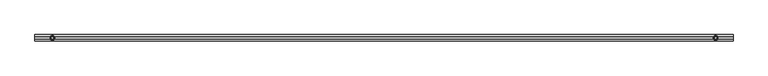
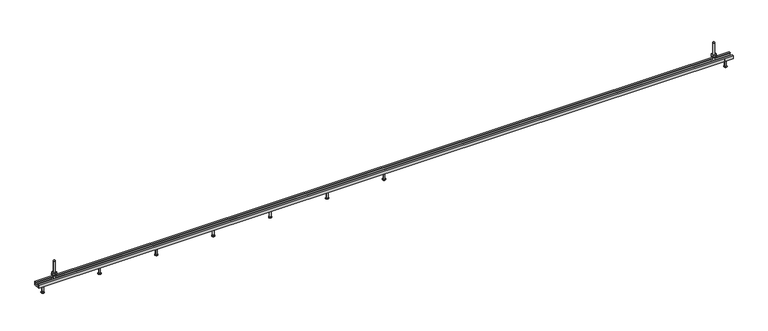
"""IFC4 building model written with IfcOpenShell, lengths in millimetres: fastener geometry, JTA-K JORDAHL® AnchorChannels : JTA-K L=3000 mm."""

from ifc_helpers import new_model, si_unit, point, frame, frame_2d, origin, place, context, project, spatial, polyline, circle_curve, trimmed, segment, composite_curve, outline, extrude, source, transform, mapped, element, save
from ifc_brep_helpers import plane_surface, cylinder_surface, revolved_surface, advanced_brep


def fastener_2a8526ea(model_context):
    return source(origin(), model_context, "Body", "SolidModel", [
        advanced_brep(
        [(1500.0, 0.0, -15.0), (1510.5, 0.0, -15.0), (1489.5, 0.0, -15.0), (1494.0, 0.0, -50.0), (1506.0, 0.0, -50.0), (1500.0, 0.0, -50.0), (1494.0, 0.0, -48.0), (1506.0, 0.0, -48.0), (1496.5, 0.0, -46.5566243), (1503.5, 0.0, -46.5566243), (1496.5, 0.0, -17.5), (1503.5, 0.0, -17.5)],
        [
            (0, 1),
            (1, 2, circle_curve(frame((1500.0, 0.0, -15.0), z_axis=(0.0, 0.0, 1.0), x_axis=(1.0, 0.0, 0.0)), 10.5)),
            (2, 0),
            (2, 1, circle_curve(frame((1500.0, 0.0, -15.0), z_axis=(0.0, 0.0, 1.0), x_axis=(1.0, 0.0, 0.0)), 10.5)),
            (3, 4, circle_curve(frame((1500.0, 0.0, -50.0), z_axis=(0.0, 0.0, -1.0), x_axis=(1.0, 0.0, 0.0)), 6.0)),
            (4, 5),
            (5, 3),
            (4, 3, circle_curve(frame((1500.0, 0.0, -50.0), z_axis=(0.0, 0.0, -1.0), x_axis=(1.0, 0.0, 0.0)), 6.0)),
            (6, 7, circle_curve(frame((1500.0, 0.0, -48.0), z_axis=(0.0, 0.0, -1.0), x_axis=(1.0, 0.0, 0.0)), 6.0)),
            (7, 4),
            (3, 6),
            (7, 6, circle_curve(frame((1500.0, 0.0, -48.0), z_axis=(0.0, 0.0, -1.0), x_axis=(1.0, 0.0, 0.0)), 6.0)),
            (8, 9, circle_curve(frame((1500.0, 0.0, -46.5566243), z_axis=(0.0, 0.0, -1.0), x_axis=(1.0, 0.0, 0.0)), 3.5)),
            (9, 7),
            (6, 8),
            (9, 8, circle_curve(frame((1500.0, 0.0, -46.5566243), z_axis=(0.0, 0.0, -1.0), x_axis=(1.0, 0.0, 0.0)), 3.5)),
            (10, 11, circle_curve(frame((1500.0, 0.0, -17.5), z_axis=(0.0, 0.0, -1.0), x_axis=(1.0, 0.0, 0.0)), 3.5)),
            (11, 9),
            (8, 10),
            (11, 10, circle_curve(frame((1500.0, 0.0, -17.5), z_axis=(0.0, 0.0, -1.0), x_axis=(1.0, 0.0, 0.0)), 3.5)),
            (1, 11),
            (10, 2),
        ],
        [
            plane_surface(frame((1500.0, 0.0, -15.0), z_axis=(0.0, 0.0, 1.0), x_axis=(1.0, 0.0, 0.0))),
            plane_surface(frame((1500.0, 0.0, -50.0), z_axis=(0.0, 0.0, -1.0), x_axis=(1.0, 0.0, 0.0))),
            cylinder_surface(frame((1500.0, 0.0, 2249.3150031), z_axis=(0.0, 0.0, 1.0), x_axis=(1.0, 0.0, 0.0)), 6.0),
            revolved_surface(polyline([(1506.0, 0.0, -48.0), (1503.5, 0.0, -46.5566243)]), (1500.0, 0.0, 2249.3150031), (0.0, 0.0, 1.0)),
            cylinder_surface(frame((1500.0, 0.0, 2249.3150031), z_axis=(0.0, 0.0, 1.0), x_axis=(1.0, 0.0, 0.0)), 3.5),
            revolved_surface(polyline([(1503.5, 0.0, -17.5), (1510.5, 0.0, -15.0)]), (1500.0, 0.0, 2249.3150031), (0.0, 0.0, 1.0)),
        ],
        [
            (0, [[1, 2, 3]]),
            (0, [[-3, 4, -1]]),
            (1, [[5, 6, 7]]),
            (1, [[8, -7, -6]]),
            (2, [[9, 10, -5, 11]]),
            (2, [[12, -11, -8, -10]]),
            (3, [[13, 14, -9, 15]]),
            (3, [[16, -15, -12, -14]]),
            (4, [[17, 18, -13, 19]]),
            (4, [[20, -19, -16, -18]]),
            (5, [[-2, 21, -17, 22]]),
            (5, [[-4, -22, -20, -21]]),
        ],
    ),
        advanced_brep(
        [(1254.1666667, 0.0, -15.0), (1264.6666667, 0.0, -15.0), (1243.6666667, 0.0, -15.0), (1248.1666667, 0.0, -50.0), (1260.1666667, 0.0, -50.0), (1254.1666667, 0.0, -50.0), (1248.1666667, 0.0, -48.0), (1260.1666667, 0.0, -48.0), (1250.6666667, 0.0, -46.5566243), (1257.6666667, 0.0, -46.5566243), (1250.6666667, 0.0, -17.5), (1257.6666667, 0.0, -17.5)],
        [
            (0, 1),
            (1, 2, circle_curve(frame((1254.1666667, 0.0, -15.0), z_axis=(0.0, 0.0, 1.0), x_axis=(1.0, 0.0, 0.0)), 10.5)),
            (2, 0),
            (2, 1, circle_curve(frame((1254.1666667, 0.0, -15.0), z_axis=(0.0, 0.0, 1.0), x_axis=(1.0, 0.0, 0.0)), 10.5)),
            (3, 4, circle_curve(frame((1254.1666667, 0.0, -50.0), z_axis=(0.0, 0.0, -1.0), x_axis=(1.0, 0.0, 0.0)), 6.0)),
            (4, 5),
            (5, 3),
            (4, 3, circle_curve(frame((1254.1666667, 0.0, -50.0), z_axis=(0.0, 0.0, -1.0), x_axis=(1.0, 0.0, 0.0)), 6.0)),
            (6, 7, circle_curve(frame((1254.1666667, 0.0, -48.0), z_axis=(0.0, 0.0, -1.0), x_axis=(1.0, 0.0, 0.0)), 6.0)),
            (7, 4),
            (3, 6),
            (7, 6, circle_curve(frame((1254.1666667, 0.0, -48.0), z_axis=(0.0, 0.0, -1.0), x_axis=(1.0, 0.0, 0.0)), 6.0)),
            (8, 9, circle_curve(frame((1254.1666667, 0.0, -46.5566243), z_axis=(0.0, 0.0, -1.0), x_axis=(1.0, 0.0, 0.0)), 3.5)),
            (9, 7),
            (6, 8),
            (9, 8, circle_curve(frame((1254.1666667, 0.0, -46.5566243), z_axis=(0.0, 0.0, -1.0), x_axis=(1.0, 0.0, 0.0)), 3.5)),
            (10, 11, circle_curve(frame((1254.1666667, 0.0, -17.5), z_axis=(0.0, 0.0, -1.0), x_axis=(1.0, 0.0, 0.0)), 3.5)),
            (11, 9),
            (8, 10),
            (11, 10, circle_curve(frame((1254.1666667, 0.0, -17.5), z_axis=(0.0, 0.0, -1.0), x_axis=(1.0, 0.0, 0.0)), 3.5)),
            (1, 11),
            (10, 2),
        ],
        [
            plane_surface(frame((1254.1666667, 0.0, -15.0), z_axis=(0.0, 0.0, 1.0), x_axis=(1.0, 0.0, 0.0))),
            plane_surface(frame((1254.1666667, 0.0, -50.0), z_axis=(0.0, 0.0, -1.0), x_axis=(1.0, 0.0, 0.0))),
            cylinder_surface(frame((1254.1666667, 0.0, 2249.3150031), z_axis=(0.0, 0.0, 1.0), x_axis=(1.0, 0.0, 0.0)), 6.0),
            revolved_surface(polyline([(1260.1666667, 0.0, -48.0), (1257.6666667, 0.0, -46.5566243)]), (1254.1666667, 0.0, 2249.3150031), (0.0, 0.0, 1.0)),
            cylinder_surface(frame((1254.1666667, 0.0, 2249.3150031), z_axis=(0.0, 0.0, 1.0), x_axis=(1.0, 0.0, 0.0)), 3.5),
            revolved_surface(polyline([(1257.6666667, 0.0, -17.5), (1264.6666667, 0.0, -15.0)]), (1254.1666667, 0.0, 2249.3150031), (0.0, 0.0, 1.0)),
        ],
        [
            (0, [[1, 2, 3]]),
            (0, [[-3, 4, -1]]),
            (1, [[5, 6, 7]]),
            (1, [[8, -7, -6]]),
            (2, [[9, 10, -5, 11]]),
            (2, [[12, -11, -8, -10]]),
            (3, [[13, 14, -9, 15]]),
            (3, [[16, -15, -12, -14]]),
            (4, [[17, 18, -13, 19]]),
            (4, [[20, -19, -16, -18]]),
            (5, [[-2, 21, -17, 22]]),
            (5, [[-4, -22, -20, -21]]),
        ],
    ),
        advanced_brep(
        [(1008.3333333, 0.0, -15.0), (1018.8333333, 0.0, -15.0), (997.8333333, 0.0, -15.0), (1002.3333333, 0.0, -50.0), (1014.3333333, 0.0, -50.0), (1008.3333333, 0.0, -50.0), (1002.3333333, 0.0, -48.0), (1014.3333333, 0.0, -48.0), (1004.8333333, 0.0, -46.5566243), (1011.8333333, 0.0, -46.5566243), (1004.8333333, 0.0, -17.5), (1011.8333333, 0.0, -17.5)],
        [
            (0, 1),
            (1, 2, circle_curve(frame((1008.3333333, 0.0, -15.0), z_axis=(0.0, 0.0, 1.0), x_axis=(1.0, 0.0, 0.0)), 10.5)),
            (2, 0),
            (2, 1, circle_curve(frame((1008.3333333, 0.0, -15.0), z_axis=(0.0, 0.0, 1.0), x_axis=(1.0, 0.0, 0.0)), 10.5)),
            (3, 4, circle_curve(frame((1008.3333333, 0.0, -50.0), z_axis=(0.0, 0.0, -1.0), x_axis=(1.0, 0.0, 0.0)), 6.0)),
            (4, 5),
            (5, 3),
            (4, 3, circle_curve(frame((1008.3333333, 0.0, -50.0), z_axis=(0.0, 0.0, -1.0), x_axis=(1.0, 0.0, 0.0)), 6.0)),
            (6, 7, circle_curve(frame((1008.3333333, 0.0, -48.0), z_axis=(0.0, 0.0, -1.0), x_axis=(1.0, 0.0, 0.0)), 6.0)),
            (7, 4),
            (3, 6),
            (7, 6, circle_curve(frame((1008.3333333, 0.0, -48.0), z_axis=(0.0, 0.0, -1.0), x_axis=(1.0, 0.0, 0.0)), 6.0)),
            (8, 9, circle_curve(frame((1008.3333333, 0.0, -46.5566243), z_axis=(0.0, 0.0, -1.0), x_axis=(1.0, 0.0, 0.0)), 3.5)),
            (9, 7),
            (6, 8),
            (9, 8, circle_curve(frame((1008.3333333, 0.0, -46.5566243), z_axis=(0.0, 0.0, -1.0), x_axis=(1.0, 0.0, 0.0)), 3.5)),
            (10, 11, circle_curve(frame((1008.3333333, 0.0, -17.5), z_axis=(0.0, 0.0, -1.0), x_axis=(1.0, 0.0, 0.0)), 3.5)),
            (11, 9),
            (8, 10),
            (11, 10, circle_curve(frame((1008.3333333, 0.0, -17.5), z_axis=(0.0, 0.0, -1.0), x_axis=(1.0, 0.0, 0.0)), 3.5)),
            (1, 11),
            (10, 2),
        ],
        [
            plane_surface(frame((1008.3333333, 0.0, -15.0), z_axis=(0.0, 0.0, 1.0), x_axis=(1.0, 0.0, 0.0))),
            plane_surface(frame((1008.3333333, 0.0, -50.0), z_axis=(0.0, 0.0, -1.0), x_axis=(1.0, 0.0, 0.0))),
            cylinder_surface(frame((1008.3333333, 0.0, 2249.3150031), z_axis=(0.0, 0.0, 1.0), x_axis=(1.0, 0.0, 0.0)), 6.0),
            revolved_surface(polyline([(1014.3333333, 0.0, -48.0), (1011.8333333, 0.0, -46.5566243)]), (1008.3333333, 0.0, 2249.3150031), (0.0, 0.0, 1.0)),
            cylinder_surface(frame((1008.3333333, 0.0, 2249.3150031), z_axis=(0.0, 0.0, 1.0), x_axis=(1.0, 0.0, 0.0)), 3.5),
            revolved_surface(polyline([(1011.8333333, 0.0, -17.5), (1018.8333333, 0.0, -15.0)]), (1008.3333333, 0.0, 2249.3150031), (0.0, 0.0, 1.0)),
        ],
        [
            (0, [[1, 2, 3]]),
            (0, [[-3, 4, -1]]),
            (1, [[5, 6, 7]]),
            (1, [[8, -7, -6]]),
            (2, [[9, 10, -5, 11]]),
            (2, [[12, -11, -8, -10]]),
            (3, [[13, 14, -9, 15]]),
            (3, [[16, -15, -12, -14]]),
            (4, [[17, 18, -13, 19]]),
            (4, [[20, -19, -16, -18]]),
            (5, [[-2, 21, -17, 22]]),
            (5, [[-4, -22, -20, -21]]),
        ],
    ),
        advanced_brep(
        [(762.5, 0.0, -15.0), (773.0, 0.0, -15.0), (752.0, 0.0, -15.0), (756.5, 0.0, -50.0), (768.5, 0.0, -50.0), (762.5, 0.0, -50.0), (756.5, 0.0, -48.0), (768.5, 0.0, -48.0), (759.0, 0.0, -46.5566243), (766.0, 0.0, -46.5566243), (759.0, 0.0, -17.5), (766.0, 0.0, -17.5)],
        [
            (0, 1),
            (1, 2, circle_curve(frame((762.5, 0.0, -15.0), z_axis=(0.0, 0.0, 1.0), x_axis=(1.0, 0.0, 0.0)), 10.5)),
            (2, 0),
            (2, 1, circle_curve(frame((762.5, 0.0, -15.0), z_axis=(0.0, 0.0, 1.0), x_axis=(1.0, 0.0, 0.0)), 10.5)),
            (3, 4, circle_curve(frame((762.5, 0.0, -50.0), z_axis=(0.0, 0.0, -1.0), x_axis=(1.0, 0.0, 0.0)), 6.0)),
            (4, 5),
            (5, 3),
            (4, 3, circle_curve(frame((762.5, 0.0, -50.0), z_axis=(0.0, 0.0, -1.0), x_axis=(1.0, 0.0, 0.0)), 6.0)),
            (6, 7, circle_curve(frame((762.5, 0.0, -48.0), z_axis=(0.0, 0.0, -1.0), x_axis=(1.0, 0.0, 0.0)), 6.0)),
            (7, 4),
            (3, 6),
            (7, 6, circle_curve(frame((762.5, 0.0, -48.0), z_axis=(0.0, 0.0, -1.0), x_axis=(1.0, 0.0, 0.0)), 6.0)),
            (8, 9, circle_curve(frame((762.5, 0.0, -46.5566243), z_axis=(0.0, 0.0, -1.0), x_axis=(1.0, 0.0, 0.0)), 3.5)),
            (9, 7),
            (6, 8),
            (9, 8, circle_curve(frame((762.5, 0.0, -46.5566243), z_axis=(0.0, 0.0, -1.0), x_axis=(1.0, 0.0, 0.0)), 3.5)),
            (10, 11, circle_curve(frame((762.5, 0.0, -17.5), z_axis=(0.0, 0.0, -1.0), x_axis=(1.0, 0.0, 0.0)), 3.5)),
            (11, 9),
            (8, 10),
            (11, 10, circle_curve(frame((762.5, 0.0, -17.5), z_axis=(0.0, 0.0, -1.0), x_axis=(1.0, 0.0, 0.0)), 3.5)),
            (1, 11),
            (10, 2),
        ],
        [
            plane_surface(frame((762.5, 0.0, -15.0), z_axis=(0.0, 0.0, 1.0), x_axis=(1.0, 0.0, 0.0))),
            plane_surface(frame((762.5, 0.0, -50.0), z_axis=(0.0, 0.0, -1.0), x_axis=(1.0, 0.0, 0.0))),
            cylinder_surface(frame((762.5, 0.0, 2249.3150031), z_axis=(0.0, 0.0, 1.0), x_axis=(1.0, 0.0, 0.0)), 6.0),
            revolved_surface(polyline([(768.5, 0.0, -48.0), (766.0, 0.0, -46.5566243)]), (762.5, 0.0, 2249.3150031), (0.0, 0.0, 1.0)),
            cylinder_surface(frame((762.5, 0.0, 2249.3150031), z_axis=(0.0, 0.0, 1.0), x_axis=(1.0, 0.0, 0.0)), 3.5),
            revolved_surface(polyline([(766.0, 0.0, -17.5), (773.0, 0.0, -15.0)]), (762.5, 0.0, 2249.3150031), (0.0, 0.0, 1.0)),
        ],
        [
            (0, [[1, 2, 3]]),
            (0, [[-3, 4, -1]]),
            (1, [[5, 6, 7]]),
            (1, [[8, -7, -6]]),
            (2, [[9, 10, -5, 11]]),
            (2, [[12, -11, -8, -10]]),
            (3, [[13, 14, -9, 15]]),
            (3, [[16, -15, -12, -14]]),
            (4, [[17, 18, -13, 19]]),
            (4, [[20, -19, -16, -18]]),
            (5, [[-2, 21, -17, 22]]),
            (5, [[-4, -22, -20, -21]]),
        ],
    ),
        advanced_brep(
        [(516.6666667, 0.0, -15.0), (527.1666667, 0.0, -15.0), (506.1666667, 0.0, -15.0), (510.6666667, 0.0, -50.0), (522.6666667, 0.0, -50.0), (516.6666667, 0.0, -50.0), (510.6666667, 0.0, -48.0), (522.6666667, 0.0, -48.0), (513.1666667, 0.0, -46.5566243), (520.1666667, 0.0, -46.5566243), (513.1666667, 0.0, -17.5), (520.1666667, 0.0, -17.5)],
        [
            (0, 1),
            (1, 2, circle_curve(frame((516.6666667, 0.0, -15.0), z_axis=(0.0, 0.0, 1.0), x_axis=(1.0, 0.0, 0.0)), 10.5)),
            (2, 0),
            (2, 1, circle_curve(frame((516.6666667, 0.0, -15.0), z_axis=(0.0, 0.0, 1.0), x_axis=(1.0, 0.0, 0.0)), 10.5)),
            (3, 4, circle_curve(frame((516.6666667, 0.0, -50.0), z_axis=(0.0, 0.0, -1.0), x_axis=(1.0, 0.0, 0.0)), 6.0)),
            (4, 5),
            (5, 3),
            (4, 3, circle_curve(frame((516.6666667, 0.0, -50.0), z_axis=(0.0, 0.0, -1.0), x_axis=(1.0, 0.0, 0.0)), 6.0)),
            (6, 7, circle_curve(frame((516.6666667, 0.0, -48.0), z_axis=(0.0, 0.0, -1.0), x_axis=(1.0, 0.0, 0.0)), 6.0)),
            (7, 4),
            (3, 6),
            (7, 6, circle_curve(frame((516.6666667, 0.0, -48.0), z_axis=(0.0, 0.0, -1.0), x_axis=(1.0, 0.0, 0.0)), 6.0)),
            (8, 9, circle_curve(frame((516.6666667, 0.0, -46.5566243), z_axis=(0.0, 0.0, -1.0), x_axis=(1.0, 0.0, 0.0)), 3.5)),
            (9, 7),
            (6, 8),
            (9, 8, circle_curve(frame((516.6666667, 0.0, -46.5566243), z_axis=(0.0, 0.0, -1.0), x_axis=(1.0, 0.0, 0.0)), 3.5)),
            (10, 11, circle_curve(frame((516.6666667, 0.0, -17.5), z_axis=(0.0, 0.0, -1.0), x_axis=(1.0, 0.0, 0.0)), 3.5)),
            (11, 9),
            (8, 10),
            (11, 10, circle_curve(frame((516.6666667, 0.0, -17.5), z_axis=(0.0, 0.0, -1.0), x_axis=(1.0, 0.0, 0.0)), 3.5)),
            (1, 11),
            (10, 2),
        ],
        [
            plane_surface(frame((516.6666667, 0.0, -15.0), z_axis=(0.0, 0.0, 1.0), x_axis=(1.0, 0.0, 0.0))),
            plane_surface(frame((516.6666667, 0.0, -50.0), z_axis=(0.0, 0.0, -1.0), x_axis=(1.0, 0.0, 0.0))),
            cylinder_surface(frame((516.6666667, 0.0, 2249.3150031), z_axis=(0.0, 0.0, 1.0), x_axis=(1.0, 0.0, 0.0)), 6.0),
            revolved_surface(polyline([(522.6666667, 0.0, -48.0), (520.1666667, 0.0, -46.5566243)]), (516.6666667, 0.0, 2249.3150031), (0.0, 0.0, 1.0)),
            cylinder_surface(frame((516.6666667, 0.0, 2249.3150031), z_axis=(0.0, 0.0, 1.0), x_axis=(1.0, 0.0, 0.0)), 3.5),
            revolved_surface(polyline([(520.1666667, 0.0, -17.5), (527.1666667, 0.0, -15.0)]), (516.6666667, 0.0, 2249.3150031), (0.0, 0.0, 1.0)),
        ],
        [
            (0, [[1, 2, 3]]),
            (0, [[-3, 4, -1]]),
            (1, [[5, 6, 7]]),
            (1, [[8, -7, -6]]),
            (2, [[9, 10, -5, 11]]),
            (2, [[12, -11, -8, -10]]),
            (3, [[13, 14, -9, 15]]),
            (3, [[16, -15, -12, -14]]),
            (4, [[17, 18, -13, 19]]),
            (4, [[20, -19, -16, -18]]),
            (5, [[-2, 21, -17, 22]]),
            (5, [[-4, -22, -20, -21]]),
        ],
    ),
        advanced_brep(
        [(270.8333333, 0.0, -15.0), (281.3333333, 0.0, -15.0), (260.3333333, 0.0, -15.0), (264.8333333, 0.0, -50.0), (276.8333333, 0.0, -50.0), (270.8333333, 0.0, -50.0), (264.8333333, 0.0, -48.0), (276.8333333, 0.0, -48.0), (267.3333333, 0.0, -46.5566243), (274.3333333, 0.0, -46.5566243), (267.3333333, 0.0, -17.5), (274.3333333, 0.0, -17.5)],
        [
            (0, 1),
            (1, 2, circle_curve(frame((270.8333333, 0.0, -15.0), z_axis=(0.0, 0.0, 1.0), x_axis=(1.0, 0.0, 0.0)), 10.5)),
            (2, 0),
            (2, 1, circle_curve(frame((270.8333333, 0.0, -15.0), z_axis=(0.0, 0.0, 1.0), x_axis=(1.0, 0.0, 0.0)), 10.5)),
            (3, 4, circle_curve(frame((270.8333333, 0.0, -50.0), z_axis=(0.0, 0.0, -1.0), x_axis=(1.0, 0.0, 0.0)), 6.0)),
            (4, 5),
            (5, 3),
            (4, 3, circle_curve(frame((270.8333333, 0.0, -50.0), z_axis=(0.0, 0.0, -1.0), x_axis=(1.0, 0.0, 0.0)), 6.0)),
            (6, 7, circle_curve(frame((270.8333333, 0.0, -48.0), z_axis=(0.0, 0.0, -1.0), x_axis=(1.0, 0.0, 0.0)), 6.0)),
            (7, 4),
            (3, 6),
            (7, 6, circle_curve(frame((270.8333333, 0.0, -48.0), z_axis=(0.0, 0.0, -1.0), x_axis=(1.0, 0.0, 0.0)), 6.0)),
            (8, 9, circle_curve(frame((270.8333333, 0.0, -46.5566243), z_axis=(0.0, 0.0, -1.0), x_axis=(1.0, 0.0, 0.0)), 3.5)),
            (9, 7),
            (6, 8),
            (9, 8, circle_curve(frame((270.8333333, 0.0, -46.5566243), z_axis=(0.0, 0.0, -1.0), x_axis=(1.0, 0.0, 0.0)), 3.5)),
            (10, 11, circle_curve(frame((270.8333333, 0.0, -17.5), z_axis=(0.0, 0.0, -1.0), x_axis=(1.0, 0.0, 0.0)), 3.5)),
            (11, 9),
            (8, 10),
            (11, 10, circle_curve(frame((270.8333333, 0.0, -17.5), z_axis=(0.0, 0.0, -1.0), x_axis=(1.0, 0.0, 0.0)), 3.5)),
            (1, 11),
            (10, 2),
        ],
        [
            plane_surface(frame((270.8333333, 0.0, -15.0), z_axis=(0.0, 0.0, 1.0), x_axis=(1.0, 0.0, 0.0))),
            plane_surface(frame((270.8333333, 0.0, -50.0), z_axis=(0.0, 0.0, -1.0), x_axis=(1.0, 0.0, 0.0))),
            cylinder_surface(frame((270.8333333, 0.0, 2249.3150031), z_axis=(0.0, 0.0, 1.0), x_axis=(1.0, 0.0, 0.0)), 6.0),
            revolved_surface(polyline([(276.8333333, 0.0, -48.0), (274.3333333, 0.0, -46.5566243)]), (270.8333333, 0.0, 2249.3150031), (0.0, 0.0, 1.0)),
            cylinder_surface(frame((270.8333333, 0.0, 2249.3150031), z_axis=(0.0, 0.0, 1.0), x_axis=(1.0, 0.0, 0.0)), 3.5),
            revolved_surface(polyline([(274.3333333, 0.0, -17.5), (281.3333333, 0.0, -15.0)]), (270.8333333, 0.0, 2249.3150031), (0.0, 0.0, 1.0)),
        ],
        [
            (0, [[1, 2, 3]]),
            (0, [[-3, 4, -1]]),
            (1, [[5, 6, 7]]),
            (1, [[8, -7, -6]]),
            (2, [[9, 10, -5, 11]]),
            (2, [[12, -11, -8, -10]]),
            (3, [[13, 14, -9, 15]]),
            (3, [[16, -15, -12, -14]]),
            (4, [[17, 18, -13, 19]]),
            (4, [[20, -19, -16, -18]]),
            (5, [[-2, 21, -17, 22]]),
            (5, [[-4, -22, -20, -21]]),
        ],
    ),
        extrude(outline(polyline([(2925.0, 9.2376043), (2933.0, 4.6188022), (2933.0, -4.6188022), (2925.0, -9.2376043), (2917.0, -4.6188022), (2917.0, 4.6188022), (2925.0, 9.2376043)]), holes=[composite_curve([segment(trimmed(circle_curve(frame_2d((2925.0, 0.0)), 4.0), [point((2921.0, 0.0))], [point((2929.0, 0.0))], True, "CARTESIAN"), True, "CONTINUOUS"), segment(trimmed(circle_curve(frame_2d((2925.0, 0.0)), 4.0), [point((2929.0, 0.0))], [point((2921.0, 0.0))], True, "CARTESIAN"), True, "CONTINUOUS")], self_intersect=False)]), frame((0.0, 0.0, 17.0), z_axis=(0.0, 0.0, 1.0), x_axis=(1.0, 0.0, 0.0)), (0.0, 0.0, 1.0), 8.4),
        extrude(outline(composite_curve([segment(trimmed(circle_curve(frame_2d((2925.0, 0.0)), 10.0), [point((2915.0, 0.0))], [point((2935.0, 0.0))], False, "CARTESIAN"), True, "CONTINUOUS"), segment(trimmed(circle_curve(frame_2d((2925.0, 0.0)), 10.0), [point((2935.0, 0.0))], [point((2915.0, 0.0))], False, "CARTESIAN"), True, "CONTINUOUS")], self_intersect=False), holes=[composite_curve([segment(trimmed(circle_curve(frame_2d((2925.0, 0.0)), 5.25), [point((2919.75, 0.0))], [point((2930.25, 0.0))], True, "CARTESIAN"), True, "CONTINUOUS"), segment(trimmed(circle_curve(frame_2d((2925.0, 0.0)), 5.25), [point((2930.25, 0.0))], [point((2919.75, 0.0))], True, "CARTESIAN"), True, "CONTINUOUS")], self_intersect=False)]), frame((0.0, 0.0, 15.0), z_axis=(0.0, 0.0, 1.0), x_axis=(1.0, 0.0, 0.0)), (0.0, 0.0, 1.0), 2.0),
        extrude(outline(polyline([(75.0, 9.2376043), (83.0, 4.6188022), (83.0, -4.6188022), (75.0, -9.2376043), (67.0, -4.6188022), (67.0, 4.6188022), (75.0, 9.2376043)]), holes=[composite_curve([segment(trimmed(circle_curve(frame_2d((75.0, 0.0)), 4.0), [point((71.0, 0.0))], [point((79.0, 0.0))], True, "CARTESIAN"), True, "CONTINUOUS"), segment(trimmed(circle_curve(frame_2d((75.0, 0.0)), 4.0), [point((79.0, 0.0))], [point((71.0, 0.0))], True, "CARTESIAN"), True, "CONTINUOUS")], self_intersect=False)]), frame((0.0, 0.0, 17.0), z_axis=(0.0, 0.0, 1.0), x_axis=(1.0, 0.0, 0.0)), (0.0, 0.0, 1.0), 8.4),
        extrude(outline(composite_curve([segment(trimmed(circle_curve(frame_2d((75.0, 0.0)), 10.0), [point((65.0, 0.0))], [point((85.0, 0.0))], False, "CARTESIAN"), True, "CONTINUOUS"), segment(trimmed(circle_curve(frame_2d((75.0, 0.0)), 10.0), [point((85.0, 0.0))], [point((65.0, 0.0))], False, "CARTESIAN"), True, "CONTINUOUS")], self_intersect=False), holes=[composite_curve([segment(trimmed(circle_curve(frame_2d((75.0, 0.0)), 5.25), [point((69.75, 0.0))], [point((80.25, 0.0))], True, "CARTESIAN"), True, "CONTINUOUS"), segment(trimmed(circle_curve(frame_2d((75.0, 0.0)), 5.25), [point((80.25, 0.0))], [point((69.75, 0.0))], True, "CARTESIAN"), True, "CONTINUOUS")], self_intersect=False)]), frame((0.0, 0.0, 15.0), z_axis=(0.0, 0.0, 1.0), x_axis=(1.0, 0.0, 0.0)), (0.0, 0.0, 1.0), 2.0),
        advanced_brep(
        [(2930.5, 11.0, -2.3), (2930.5, -11.0, -2.3), (2930.5, -11.0, -8.3), (2930.5, 11.0, -8.3), (2919.5, 11.0, -2.3), (2919.5, 11.0, -8.3), (2919.5, -11.0, -8.3), (2919.5, -11.0, -2.3), (2929.0, 0.0, -2.3), (2921.0, 0.0, -2.3), (2921.0, 0.0, 77.7), (2929.0, 0.0, 77.7)],
        [
            (0, 1),
            (1, 2),
            (2, 3),
            (3, 0),
            (4, 5),
            (5, 6),
            (6, 7),
            (7, 4),
            (0, 4),
            (7, 1),
            (8, 9, circle_curve(frame((2925.0, 0.0, -2.3), z_axis=(0.0, 0.0, -1.0), x_axis=(1.0, 0.0, 0.0)), 4.0)),
            (9, 8, circle_curve(frame((2925.0, 0.0, -2.3), z_axis=(0.0, 0.0, -1.0), x_axis=(1.0, 0.0, 0.0)), 4.0)),
            (6, 2),
            (5, 3),
            (10, 11, circle_curve(frame((2925.0, 0.0, 77.7), z_axis=(0.0, 0.0, 1.0), x_axis=(1.0, 0.0, 0.0)), 4.0)),
            (11, 10, circle_curve(frame((2925.0, 0.0, 77.7), z_axis=(0.0, 0.0, 1.0), x_axis=(1.0, 0.0, 0.0)), 4.0)),
            (10, 9),
            (8, 11),
        ],
        [
            plane_surface(frame((2930.5, -11.0, -2.3), z_axis=(1.0, 0.0, 0.0), x_axis=(0.0, -1.0, 0.0))),
            plane_surface(frame((2919.5, -11.0, -2.3), z_axis=(-1.0, 0.0, 0.0), x_axis=(0.0, 1.0, 0.0))),
            plane_surface(frame((2930.5, 11.0, -2.3), z_axis=(0.0, 0.0, 1.0), x_axis=(-1.0, 0.0, 0.0))),
            plane_surface(frame((2930.5, -11.0, -2.3), z_axis=(0.0, -1.0, 0.0), x_axis=(-1.0, 0.0, 0.0))),
            plane_surface(frame((2930.5, -11.0, -8.3), z_axis=(0.0, 0.0, -1.0), x_axis=(-1.0, 0.0, 0.0))),
            plane_surface(frame((2930.5, 11.0, -8.3), z_axis=(0.0, 1.0, 0.0), x_axis=(-1.0, 0.0, 0.0))),
            plane_surface(frame((2929.0, 0.0, 77.7), z_axis=(0.0, 0.0, 1.0), x_axis=(0.0, 1.0, 0.0))),
            cylinder_surface(frame((2925.0, 0.0, -2.3), z_axis=(0.0, 0.0, 1.0), x_axis=(1.0, 0.0, 0.0)), 4.0),
        ],
        [
            (0, [[1, 2, 3, 4]]),
            (1, [[5, 6, 7, 8]]),
            (2, [[-1, 9, -8, 10], [11, 12]]),
            (3, [[-2, -10, -7, 13]]),
            (4, [[-3, -13, -6, 14]]),
            (5, [[-4, -14, -5, -9]]),
            (6, [[15, 16]]),
            (7, [[-15, 17, -11, 18]]),
            (7, [[-16, -18, -12, -17]]),
        ],
    ),
        advanced_brep(
        [(80.5, 11.0, -2.3), (80.5, -11.0, -2.3), (80.5, -11.0, -8.3), (80.5, 11.0, -8.3), (69.5, 11.0, -2.3), (69.5, 11.0, -8.3), (69.5, -11.0, -8.3), (69.5, -11.0, -2.3), (79.0, 0.0, -2.3), (71.0, 0.0, -2.3), (71.0, 0.0, 77.7), (79.0, 0.0, 77.7)],
        [
            (0, 1),
            (1, 2),
            (2, 3),
            (3, 0),
            (4, 5),
            (5, 6),
            (6, 7),
            (7, 4),
            (0, 4),
            (7, 1),
            (8, 9, circle_curve(frame((75.0, 0.0, -2.3), z_axis=(0.0, 0.0, -1.0), x_axis=(1.0, 0.0, 0.0)), 4.0)),
            (9, 8, circle_curve(frame((75.0, 0.0, -2.3), z_axis=(0.0, 0.0, -1.0), x_axis=(1.0, 0.0, 0.0)), 4.0)),
            (6, 2),
            (5, 3),
            (10, 11, circle_curve(frame((75.0, 0.0, 77.7), z_axis=(0.0, 0.0, 1.0), x_axis=(1.0, 0.0, 0.0)), 4.0)),
            (11, 10, circle_curve(frame((75.0, 0.0, 77.7), z_axis=(0.0, 0.0, 1.0), x_axis=(1.0, 0.0, 0.0)), 4.0)),
            (10, 9),
            (8, 11),
        ],
        [
            plane_surface(frame((80.5, -11.0, -2.3), z_axis=(1.0, 0.0, 0.0), x_axis=(0.0, -1.0, 0.0))),
            plane_surface(frame((69.5, -11.0, -2.3), z_axis=(-1.0, 0.0, 0.0), x_axis=(0.0, 1.0, 0.0))),
            plane_surface(frame((80.5, 11.0, -2.3), z_axis=(0.0, 0.0, 1.0), x_axis=(-1.0, 0.0, 0.0))),
            plane_surface(frame((80.5, -11.0, -2.3), z_axis=(0.0, -1.0, 0.0), x_axis=(-1.0, 0.0, 0.0))),
            plane_surface(frame((80.5, -11.0, -8.3), z_axis=(0.0, 0.0, -1.0), x_axis=(-1.0, 0.0, 0.0))),
            plane_surface(frame((80.5, 11.0, -8.3), z_axis=(0.0, 1.0, 0.0), x_axis=(-1.0, 0.0, 0.0))),
            plane_surface(frame((79.0, 0.0, 77.7), z_axis=(0.0, 0.0, 1.0), x_axis=(0.0, 1.0, 0.0))),
            cylinder_surface(frame((75.0, 0.0, -2.3), z_axis=(0.0, 0.0, 1.0), x_axis=(1.0, 0.0, 0.0)), 4.0),
        ],
        [
            (0, [[1, 2, 3, 4]]),
            (1, [[5, 6, 7, 8]]),
            (2, [[-1, 9, -8, 10], [11, 12]]),
            (3, [[-2, -10, -7, 13]]),
            (4, [[-3, -13, -6, 14]]),
            (5, [[-4, -14, -5, -9]]),
            (6, [[15, 16]]),
            (7, [[-15, 17, -11, 18]]),
            (7, [[-16, -18, -12, -17]]),
        ],
    ),
        advanced_brep(
        [(2975.0, 0.0, -15.0), (2985.5, 0.0, -15.0), (2964.5, 0.0, -15.0), (2969.0, 0.0, -50.0), (2981.0, 0.0, -50.0), (2975.0, 0.0, -50.0), (2969.0, 0.0, -48.0), (2981.0, 0.0, -48.0), (2971.5, 0.0, -46.5566243), (2978.5, 0.0, -46.5566243), (2971.5, 0.0, -17.5), (2978.5, 0.0, -17.5)],
        [
            (0, 1),
            (1, 2, circle_curve(frame((2975.0, 0.0, -15.0), z_axis=(0.0, 0.0, 1.0), x_axis=(1.0, 0.0, 0.0)), 10.5)),
            (2, 0),
            (2, 1, circle_curve(frame((2975.0, 0.0, -15.0), z_axis=(0.0, 0.0, 1.0), x_axis=(1.0, 0.0, 0.0)), 10.5)),
            (3, 4, circle_curve(frame((2975.0, 0.0, -50.0), z_axis=(0.0, 0.0, -1.0), x_axis=(1.0, 0.0, 0.0)), 6.0)),
            (4, 5),
            (5, 3),
            (4, 3, circle_curve(frame((2975.0, 0.0, -50.0), z_axis=(0.0, 0.0, -1.0), x_axis=(1.0, 0.0, 0.0)), 6.0)),
            (6, 7, circle_curve(frame((2975.0, 0.0, -48.0), z_axis=(0.0, 0.0, -1.0), x_axis=(1.0, 0.0, 0.0)), 6.0)),
            (7, 4),
            (3, 6),
            (7, 6, circle_curve(frame((2975.0, 0.0, -48.0), z_axis=(0.0, 0.0, -1.0), x_axis=(1.0, 0.0, 0.0)), 6.0)),
            (8, 9, circle_curve(frame((2975.0, 0.0, -46.5566243), z_axis=(0.0, 0.0, -1.0), x_axis=(1.0, 0.0, 0.0)), 3.5)),
            (9, 7),
            (6, 8),
            (9, 8, circle_curve(frame((2975.0, 0.0, -46.5566243), z_axis=(0.0, 0.0, -1.0), x_axis=(1.0, 0.0, 0.0)), 3.5)),
            (10, 11, circle_curve(frame((2975.0, 0.0, -17.5), z_axis=(0.0, 0.0, -1.0), x_axis=(1.0, 0.0, 0.0)), 3.5)),
            (11, 9),
            (8, 10),
            (11, 10, circle_curve(frame((2975.0, 0.0, -17.5), z_axis=(0.0, 0.0, -1.0), x_axis=(1.0, 0.0, 0.0)), 3.5)),
            (1, 11),
            (10, 2),
        ],
        [
            plane_surface(frame((2975.0, 0.0, -15.0), z_axis=(0.0, 0.0, 1.0), x_axis=(1.0, 0.0, 0.0))),
            plane_surface(frame((2975.0, 0.0, -50.0), z_axis=(0.0, 0.0, -1.0), x_axis=(1.0, 0.0, 0.0))),
            cylinder_surface(frame((2975.0, 0.0, 2249.3150031), z_axis=(0.0, 0.0, 1.0), x_axis=(1.0, 0.0, 0.0)), 6.0),
            revolved_surface(polyline([(2981.0, 0.0, -48.0), (2978.5, 0.0, -46.5566243)]), (2975.0, 0.0, 2249.3150031), (0.0, 0.0, 1.0)),
            cylinder_surface(frame((2975.0, 0.0, 2249.3150031), z_axis=(0.0, 0.0, 1.0), x_axis=(1.0, 0.0, 0.0)), 3.5),
            revolved_surface(polyline([(2978.5, 0.0, -17.5), (2985.5, 0.0, -15.0)]), (2975.0, 0.0, 2249.3150031), (0.0, 0.0, 1.0)),
        ],
        [
            (0, [[1, 2, 3]]),
            (0, [[-3, 4, -1]]),
            (1, [[5, 6, 7]]),
            (1, [[8, -7, -6]]),
            (2, [[9, 10, -5, 11]]),
            (2, [[12, -11, -8, -10]]),
            (3, [[13, 14, -9, 15]]),
            (3, [[16, -15, -12, -14]]),
            (4, [[17, 18, -13, 19]]),
            (4, [[20, -19, -16, -18]]),
            (5, [[-2, 21, -17, 22]]),
            (5, [[-4, -22, -20, -21]]),
        ],
    ),
        advanced_brep(
        [(25.0, 0.0, -15.0), (35.5, 0.0, -15.0), (14.5, 0.0, -15.0), (19.0, 0.0, -50.0), (31.0, 0.0, -50.0), (25.0, 0.0, -50.0), (19.0, 0.0, -48.0), (31.0, 0.0, -48.0), (21.5, 0.0, -46.5566243), (28.5, 0.0, -46.5566243), (21.5, 0.0, -17.5), (28.5, 0.0, -17.5)],
        [
            (0, 1),
            (1, 2, circle_curve(frame((25.0, 0.0, -15.0), z_axis=(0.0, 0.0, 1.0), x_axis=(1.0, 0.0, 0.0)), 10.5)),
            (2, 0),
            (2, 1, circle_curve(frame((25.0, 0.0, -15.0), z_axis=(0.0, 0.0, 1.0), x_axis=(1.0, 0.0, 0.0)), 10.5)),
            (3, 4, circle_curve(frame((25.0, 0.0, -50.0), z_axis=(0.0, 0.0, -1.0), x_axis=(1.0, 0.0, 0.0)), 6.0)),
            (4, 5),
            (5, 3),
            (4, 3, circle_curve(frame((25.0, 0.0, -50.0), z_axis=(0.0, 0.0, -1.0), x_axis=(1.0, 0.0, 0.0)), 6.0)),
            (6, 7, circle_curve(frame((25.0, 0.0, -48.0), z_axis=(0.0, 0.0, -1.0), x_axis=(1.0, 0.0, 0.0)), 6.0)),
            (7, 4),
            (3, 6),
            (7, 6, circle_curve(frame((25.0, 0.0, -48.0), z_axis=(0.0, 0.0, -1.0), x_axis=(1.0, 0.0, 0.0)), 6.0)),
            (8, 9, circle_curve(frame((25.0, 0.0, -46.5566243), z_axis=(0.0, 0.0, -1.0), x_axis=(1.0, 0.0, 0.0)), 3.5)),
            (9, 7),
            (6, 8),
            (9, 8, circle_curve(frame((25.0, 0.0, -46.5566243), z_axis=(0.0, 0.0, -1.0), x_axis=(1.0, 0.0, 0.0)), 3.5)),
            (10, 11, circle_curve(frame((25.0, 0.0, -17.5), z_axis=(0.0, 0.0, -1.0), x_axis=(1.0, 0.0, 0.0)), 3.5)),
            (11, 9),
            (8, 10),
            (11, 10, circle_curve(frame((25.0, 0.0, -17.5), z_axis=(0.0, 0.0, -1.0), x_axis=(1.0, 0.0, 0.0)), 3.5)),
            (1, 11),
            (10, 2),
        ],
        [
            plane_surface(frame((25.0, 0.0, -15.0), z_axis=(0.0, 0.0, 1.0), x_axis=(1.0, 0.0, 0.0))),
            plane_surface(frame((25.0, 0.0, -50.0), z_axis=(0.0, 0.0, -1.0), x_axis=(1.0, 0.0, 0.0))),
            cylinder_surface(frame((25.0, 0.0, 2249.3150031), z_axis=(0.0, 0.0, 1.0), x_axis=(1.0, 0.0, 0.0)), 6.0),
            revolved_surface(polyline([(31.0, 0.0, -48.0), (28.5, 0.0, -46.5566243)]), (25.0, 0.0, 2249.3150031), (0.0, 0.0, 1.0)),
            cylinder_surface(frame((25.0, 0.0, 2249.3150031), z_axis=(0.0, 0.0, 1.0), x_axis=(1.0, 0.0, 0.0)), 3.5),
            revolved_surface(polyline([(28.5, 0.0, -17.5), (35.5, 0.0, -15.0)]), (25.0, 0.0, 2249.3150031), (0.0, 0.0, 1.0)),
        ],
        [
            (0, [[1, 2, 3]]),
            (0, [[-3, 4, -1]]),
            (1, [[5, 6, 7]]),
            (1, [[8, -7, -6]]),
            (2, [[9, 10, -5, 11]]),
            (2, [[12, -11, -8, -10]]),
            (3, [[13, 14, -9, 15]]),
            (3, [[16, -15, -12, -14]]),
            (4, [[17, 18, -13, 19]]),
            (4, [[20, -19, -16, -18]]),
            (5, [[-2, 21, -17, 22]]),
            (5, [[-4, -22, -20, -21]]),
        ],
    ),
        extrude(outline(polyline([(14.0, 0.0), (14.0, -15.0), (-14.0, -15.0), (-14.0, 0.0), (-6.0, 0.0), (-6.0, -2.3), (-11.7, -2.3), (-11.7, -12.7), (11.7, -12.7), (11.7, -2.3), (6.0, -2.3), (6.0, 0.0), (14.0, 0.0)])), frame((0.0, 0.0, 0.0), z_axis=(1.0, 0.0, 0.0), x_axis=(0.0, 1.0, 0.0)), (0.0, 0.0, 1.0), 3000.0),
    ])


if __name__ == "__main__":
    model = new_model("IFC4")
    model_context = context("Model", 3, world=origin())
    ifc_project = project(units=[si_unit("LENGTHUNIT", "METRE", prefix="MILLI")], contexts=[model_context])
    site = spatial("IfcSite", under=ifc_project)
    building = spatial("IfcBuilding", under=site)
    placement = place(None, origin())
    fastener_shape = fastener_2a8526ea(model_context)
    element("IfcFastener", 1, ObjectType="JTA-K JORDAHL® AnchorChannels : JTA-K L=3000 mm", at=placement, inside=building, context=model_context, shape_type="MappedRepresentation", body=[
        mapped(fastener_shape, transform((0.0, 0.0, 0.0), x_axis=(1.0, 0.0, 0.0), y_axis=(0.0, 1.0, 0.0), z_axis=(0.0, 0.0, 1.0))),
    ])
    save(model, "model.ifc")
